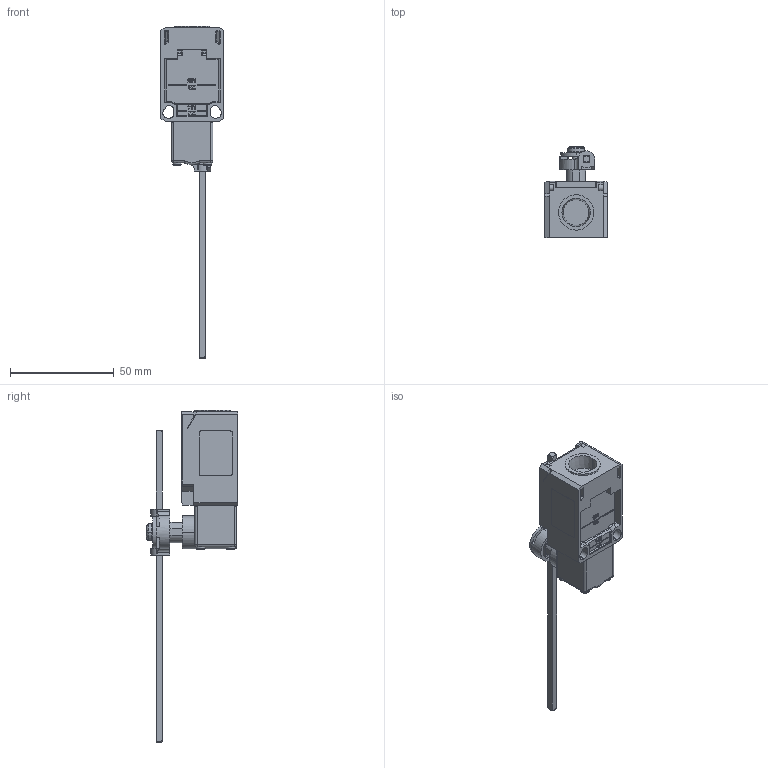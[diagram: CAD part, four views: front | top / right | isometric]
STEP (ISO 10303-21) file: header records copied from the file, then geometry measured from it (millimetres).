
FILE_DESCRIPTION((''),'2;1');
FILE_NAME('TI2-AD','2014-07-23T',('Yvonne.Storm'),(''),'PRO/ENGINEER BY PARAMETRIC TECHNOLOGY CORPORATION, 2012360','PRO/ENGINEER BY PARAMETRIC TECHNOLOGY CORPORATION, 2012360','');
FILE_SCHEMA(('AUTOMOTIVE_DESIGN { 1 0 10303 214 1 1 1 1 }'));
Products named in the file (1): TI2-AD
Bounding box: 30.1 x 43.85 x 159.8 mm (x, y, z)
Volume: 25296.5 mm3; surface area: 24156.8 mm2
Topology: 2 solids, 2 shells, 1591 faces, 4183 edges, 2603 vertices
Faces by surface type: plane 1076, cylinder 311, sphere 68, cone 67, torus 53, bspline 16
Entity records: 75482 total; most frequent: CARTESIAN_POINT 11166, ORIENTED_EDGE 8334, DIRECTION 7877, PRESENTATION_STYLE_ASSIGNMENT 5747, STYLED_ITEM 4174, CURVE_STYLE 4167, EDGE_CURVE 4167, VECTOR 2859
